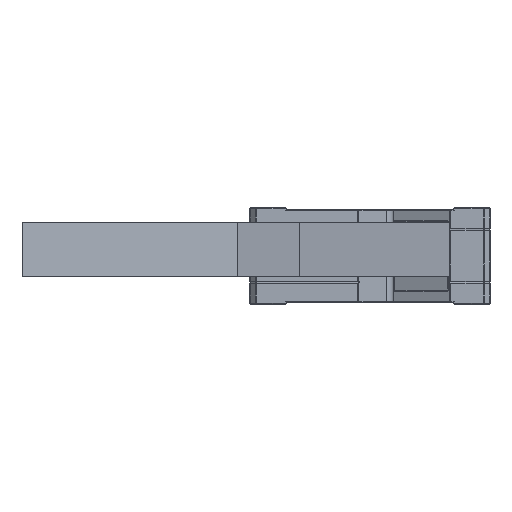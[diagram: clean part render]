
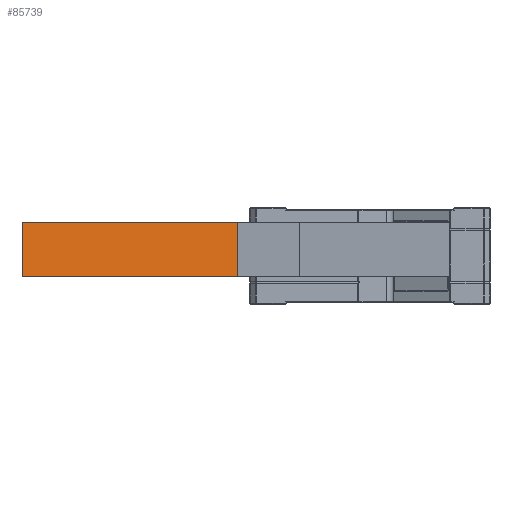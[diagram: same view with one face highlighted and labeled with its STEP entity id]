
A CAD part, top view. The second image highlights one B-rep face of the part: STEP entity #85739.
In plain terms, the highlighted planar face has unit normal (0.616, 0, 0.788).
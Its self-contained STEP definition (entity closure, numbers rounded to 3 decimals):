
#3773 = DIRECTION ( 'NONE',  ( 0., 1., 0. ) ) ;
#3822 = CARTESIAN_POINT ( 'NONE',  ( -115.9, -7., 102.5 ) ) ;
#3868 = DIRECTION ( 'NONE',  ( 0., 1., 0. ) ) ;
#6865 = ORIENTED_EDGE ( 'NONE', *, *, #13851, .F. ) ;
#8414 = LINE ( 'NONE', #76667, #35939 ) ;
#13504 = ORIENTED_EDGE ( 'NONE', *, *, #55962, .T. ) ;
#13851 = EDGE_CURVE ( 'NONE', #81421, #78661, #24194, .T. ) ;
#17870 = VERTEX_POINT ( 'NONE', #34673 ) ;
#22242 = ORIENTED_EDGE ( 'NONE', *, *, #31432, .T. ) ;
#24194 = LINE ( 'NONE', #70281, #78548 ) ;
#26671 = CARTESIAN_POINT ( 'NONE',  ( -115.9, -7., 102.5 ) ) ;
#30633 = EDGE_LOOP ( 'NONE', ( #72101, #6865, #22242, #13504 ) ) ;
#31432 = EDGE_CURVE ( 'NONE', #81421, #17870, #46618, .T. ) ;
#31774 = LINE ( 'NONE', #58388, #51002 ) ;
#34673 = CARTESIAN_POINT ( 'NONE',  ( -29.5, -7., 35. ) ) ;
#35444 = DIRECTION ( 'NONE',  ( 0.788, 0., -0.616 ) ) ;
#35544 = EDGE_CURVE ( 'NONE', #78661, #71128, #8414, .T. ) ;
#35939 = VECTOR ( 'NONE', #35444, 1000. ) ;
#42442 = CARTESIAN_POINT ( 'NONE',  ( -115.9, -7., 102.5 ) ) ;
#46618 = LINE ( 'NONE', #26671, #73764 ) ;
#47453 = CARTESIAN_POINT ( 'NONE',  ( -115.9, 11., 102.5 ) ) ;
#51002 = VECTOR ( 'NONE', #3868, 1000. ) ;
#51892 = AXIS2_PLACEMENT_3D ( 'NONE', #42442, #70781, #76999 ) ;
#53283 = DIRECTION ( 'NONE',  ( 0.788, 0., -0.616 ) ) ;
#55962 = EDGE_CURVE ( 'NONE', #17870, #71128, #31774, .T. ) ;
#58388 = CARTESIAN_POINT ( 'NONE',  ( -29.5, -7., 35. ) ) ;
#70281 = CARTESIAN_POINT ( 'NONE',  ( -115.9, -7., 102.5 ) ) ;
#70781 = DIRECTION ( 'NONE',  ( 0.616, 0., 0.788 ) ) ;
#71128 = VERTEX_POINT ( 'NONE', #76534 ) ;
#72101 = ORIENTED_EDGE ( 'NONE', *, *, #35544, .F. ) ;
#73764 = VECTOR ( 'NONE', #53283, 1000. ) ;
#76534 = CARTESIAN_POINT ( 'NONE',  ( -29.5, 11., 35. ) ) ;
#76667 = CARTESIAN_POINT ( 'NONE',  ( -115.9, 11., 102.5 ) ) ;
#76999 = DIRECTION ( 'NONE',  ( 0.788, 0., -0.616 ) ) ;
#77454 = PLANE ( 'NONE',  #51892 ) ;
#78548 = VECTOR ( 'NONE', #3773, 1000. ) ;
#78661 = VERTEX_POINT ( 'NONE', #47453 ) ;
#81421 = VERTEX_POINT ( 'NONE', #3822 ) ;
#82353 = FACE_OUTER_BOUND ( 'NONE', #30633, .T. ) ;
#85739 = ADVANCED_FACE ( 'NONE', ( #82353 ), #77454, .T. ) ;
